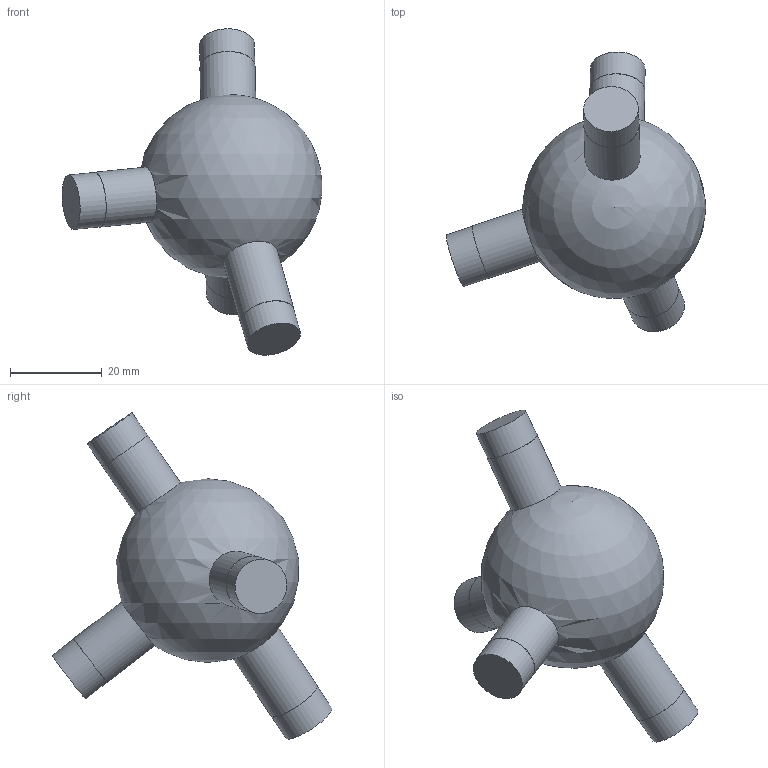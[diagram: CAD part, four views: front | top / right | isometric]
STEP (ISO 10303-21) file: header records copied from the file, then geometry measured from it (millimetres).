
FILE_DESCRIPTION(('Open CASCADE Model'),'2;1');
FILE_NAME('Open CASCADE Shape Model','2026-10-21T12:47:57',('Author'),( 'Open CASCADE'),'Open CASCADE STEP processor 7.9','Open CASCADE 7.9' ,'Unknown');
FILE_SCHEMA(('AUTOMOTIVE_DESIGN { 1 0 10303 214 1 1 1 1 }'));
Length unit declared in the file: millimetre
Products named in the file (1): Open CASCADE STEP translator 7.9 128
Bounding box: 56.55 x 60.93 x 71.06 mm (x, y, z)
Volume: 41975.6 mm3; surface area: 7915.1 mm2
Topology: 1 solids, 1 shells, 17 faces, 27 edges, 18 vertices
Faces by surface type: cylinder 8, plane 8, sphere 1
Full cylindrical faces by diameter (mm): 11.9 x4, 12 x4
Entity records: 962 total; most frequent: CARTESIAN_POINT 377, DIRECTION 120, ORIENTED_EDGE 48, PCURVE 48, DEFINITIONAL_REPRESENTATION 48, LINE 40, VECTOR 40, AXIS2_PLACEMENT_3D 34
